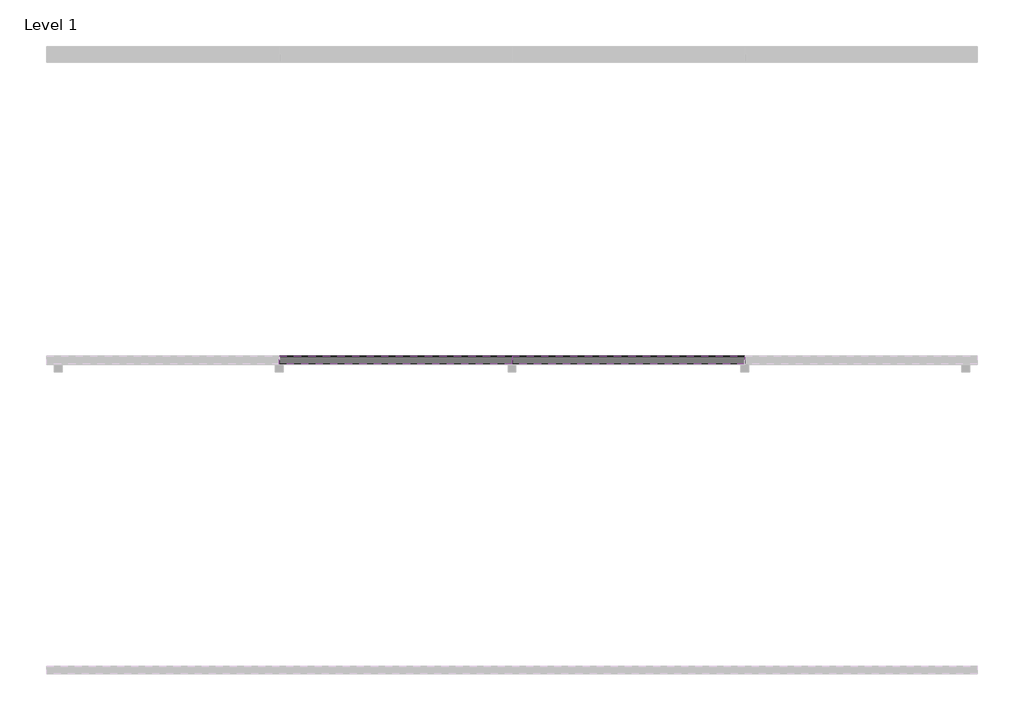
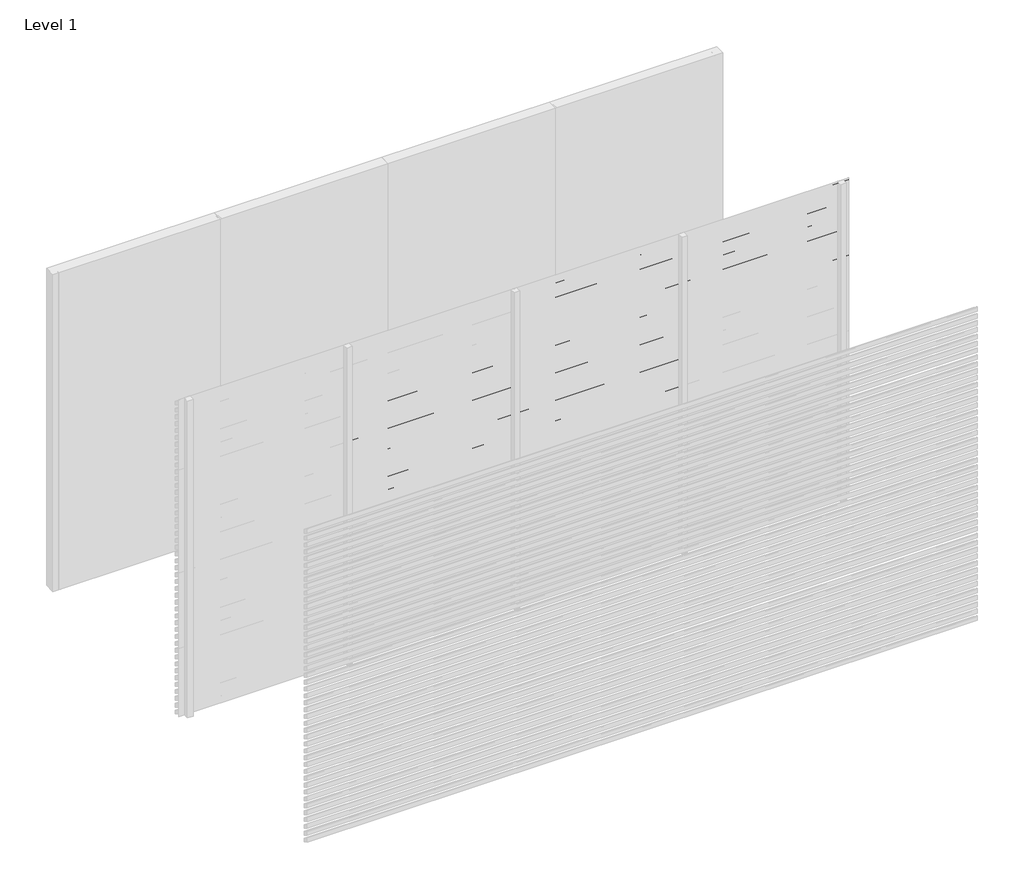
# One storey, part 5 of 10: 97 proxies.
"""IFC4 building model written with IfcOpenShell, lengths in millimetres."""

import ifcopenshell
import ifcopenshell.guid

model = None  # the IFC model being written
_history = None  # IfcOwnerHistory: only IFC2X3 demands one
_inside = {}  # id of a spatial element -> (the spatial element, [elements in it])
_under = {}  # id of a project, library or spatial element -> (it, [spatial elements below it])
_declared = {}  # id of a project -> (the project, [libraries it declares])
_typed = {}  # id of a type object -> (the type object, [elements of that type])
_made_of = {}  # id of a material, layer set ... -> (it, [elements and type objects made of it])


def new_model(schema):
    """Start an empty IFC model of exactly this schema.

    Asked for "IFC4X3", IfcOpenShell would pick the latest addendum, in which some entities
    have other attributes; the version numbers below select the first issue.
    IFC2X3 requires an IfcOwnerHistory on every rooted entity: one is made here for all.
    """
    global model, _history
    if schema == "IFC4X3":
        model = ifcopenshell.file(schema_version=(4, 3, 0, 0))
    else:
        model = ifcopenshell.file(schema=schema)
    _inside.clear()
    _under.clear()
    _declared.clear()
    _typed.clear()
    _made_of.clear()
    _history = None
    if model.schema == "IFC2X3":
        org = make("IfcOrganization", Name="unknown")
        user = make(
            "IfcPersonAndOrganization",
            ThePerson=make("IfcPerson", FamilyName="unknown"),
            TheOrganization=org,
        )
        app = make(
            "IfcApplication",
            ApplicationDeveloper=org,
            Version="unknown",
            ApplicationFullName="unknown",
            ApplicationIdentifier="unknown",
        )
        _history = make(
            "IfcOwnerHistory",
            OwningUser=user,
            OwningApplication=app,
            ChangeAction="ADDED",
            CreationDate=0,
        )
    return model


def make(cls, **values):
    """One entity of the class cls with the attributes given. An attribute that is None is left unset."""
    return model.create_entity(
        cls, **{name: value for name, value in values.items() if value is not None}
    )


def rooted(cls, **values):
    """An entity with a GlobalId (a new one), such as an element, a storey or a relation."""
    return make(cls, GlobalId=ifcopenshell.guid.new(), OwnerHistory=_history, **values)


def si_unit(unit_type, name, prefix=None):
    """IfcSIUnit, for example si_unit("LENGTHUNIT", "METRE", prefix="MILLI")."""
    return make("IfcSIUnit", UnitType=unit_type, Prefix=prefix, Name=name)


def assignment(units):
    """IfcUnitAssignment: the units of a project."""
    return None if units is None else make("IfcUnitAssignment", Units=units)


def point(xyz):
    """IfcCartesianPoint."""
    return None if xyz is None else make("IfcCartesianPoint", Coordinates=xyz)


def direction(xyz):
    """IfcDirection."""
    return None if xyz is None else make("IfcDirection", DirectionRatios=xyz)


def frame(location, z_axis=None, x_axis=None):
    """IfcAxis2Placement3D, a coordinate frame: its origin and axes. An axis left out is left unset."""
    return make(
        "IfcAxis2Placement3D",
        Location=point(location),
        Axis=direction(z_axis),
        RefDirection=direction(x_axis),
    )


def origin():
    """The frame at (0, 0, 0) with its axes left unset."""
    return frame((0.0, 0.0, 0.0))


def place(relative_to, where):
    """IfcLocalPlacement: puts the frame where relative to a parent placement (None: the world)."""
    return make(
        "IfcLocalPlacement", PlacementRelTo=relative_to, RelativePlacement=where
    )


def context(
    kind, dimensions, precision=None, world=None, true_north=None, identifier=None
):
    """IfcGeometricRepresentationContext, for example the 3D "Model" context."""
    return make(
        "IfcGeometricRepresentationContext",
        ContextIdentifier=identifier,
        ContextType=kind,
        CoordinateSpaceDimension=dimensions,
        Precision=precision,
        WorldCoordinateSystem=world,
        TrueNorth=true_north,
    )


def project(units=None, contexts=None):
    """IfcProject with its units and contexts."""
    return rooted(
        "IfcProject",
        Name="project",
        RepresentationContexts=contexts,
        UnitsInContext=assignment(units),
    )


def spatial(cls, under=None, at=None, **own):
    """A site, building, storey or space (cls), placed at a placement, below another one or the project."""
    s = rooted(cls, ObjectPlacement=at, **own)
    if under is not None:
        _under.setdefault(under.id(), (under, []))[1].append(s)
    return s


def polyline(points):
    """IfcPolyline through the points."""
    return make("IfcPolyline", Points=[point(p) for p in points])


def outline(outer, holes=None, kind="AREA"):
    """IfcArbitraryClosedProfileDef: a profile drawn as a closed curve; with holes, ...WithVoids."""
    if holes is None:
        return make("IfcArbitraryClosedProfileDef", ProfileType=kind, OuterCurve=outer)
    return make(
        "IfcArbitraryProfileDefWithVoids",
        ProfileType=kind,
        OuterCurve=outer,
        InnerCurves=holes,
    )


def extrude(swept, where, along, depth):
    """IfcExtrudedAreaSolid: the profile swept, set in the frame where, extruded along a direction by depth."""
    return make(
        "IfcExtrudedAreaSolid",
        SweptArea=swept,
        Position=where,
        ExtrudedDirection=direction(along),
        Depth=depth,
    )


def shape(context_of_items, identifier, shape_type, items):
    """IfcShapeRepresentation: the items that make up one representation, for example the "Body"."""
    return make(
        "IfcShapeRepresentation",
        ContextOfItems=context_of_items,
        RepresentationIdentifier=identifier,
        RepresentationType=shape_type,
        Items=items,
    )


def made_of(thing, what):
    """Note that an element or type object is made of a material, layer set ...; save() writes the relation."""
    if what is not None:
        _made_of.setdefault(what.id(), (what, []))[1].append(thing)
    return thing


def element(
    cls,
    number,
    at=None,
    inside=None,
    cuts=None,
    type_object=None,
    material=None,
    context=None,
    identifier="Body",
    shape_type=None,
    held_by="IfcProductDefinitionShape",
    body=None,
    shapes=None,
    **own,
):
    """One element of the class cls, such as IfcWall. Its Tag is "e" and its number.

    at: its placement. inside: the storey or other place that contains it. cuts: it is an
    opening in that element (IfcRelVoidsElement). A single representation is given by context,
    identifier, shape_type and body (its items); several are given by shapes. held_by: the class
    of the entity that holds the representations. save() writes the other relations.
    """
    e = rooted(cls, Tag="e%d" % number, ObjectPlacement=at, **own)
    if body is not None:
        shapes = [shape(context, identifier, shape_type, body)]
    if shapes is not None:
        e.Representation = make(held_by, Representations=shapes)
    if inside is not None:
        _inside.setdefault(inside.id(), (inside, []))[1].append(e)
    if cuts is not None:
        rooted(
            "IfcRelVoidsElement", RelatingBuildingElement=cuts, RelatedOpeningElement=e
        )
    if type_object is not None:
        _typed.setdefault(type_object.id(), (type_object, []))[1].append(e)
    return made_of(e, material)


def aggregate(whole, parts):
    """IfcRelAggregates: a whole, such as a stair, and the parts it consists of."""
    return rooted("IfcRelAggregates", RelatingObject=whole, RelatedObjects=parts)


def save(model, path):
    """Write the relations noted so far, then the file.

    IfcRelAggregates (storeys below a building ...), IfcRelContainedInSpatialStructure (elements
    in a storey), IfcRelDefinesByType, IfcRelAssociatesMaterial and IfcRelDeclares: one each for
    every whole, place, type object, material and project.
    """
    for whole, parts in _under.values():
        aggregate(whole, parts)
    for where, things in _inside.values():
        rooted(
            "IfcRelContainedInSpatialStructure",
            RelatedElements=things,
            RelatingStructure=where,
        )
    for kind, things in _typed.values():
        rooted("IfcRelDefinesByType", RelatedObjects=things, RelatingType=kind)
    for what, things in _made_of.values():
        rooted("IfcRelAssociatesMaterial", RelatedObjects=things, RelatingMaterial=what)
    for by, libraries in _declared.values():
        rooted("IfcRelDeclares", RelatingContext=by, RelatedDefinitions=libraries)
    model.write(path)


model = new_model("IFC4")

# Units and contexts
model_context = context("Model", 3, world=origin())
ifc_project = project(units=[si_unit("LENGTHUNIT", "METRE", prefix="MILLI")], contexts=[model_context])

# Site, building, storey
site = spatial("IfcSite", under=ifc_project)
building = spatial("IfcBuilding", under=site)
storey = spatial("IfcBuildingStorey", under=building, Name="Level 1", Elevation=0.0)

# Proxies
placement = place(None, origin())
element("IfcBuildingElementProxy", 1, Name="Wall Sweeps", at=placement, inside=storey, context=model_context, shape_type="SweptSolid", body=[
    extrude(outline(polyline([(-11995.0, 2535.0), (-11995.0, 2526.2901632), (-11946.0, 2498.0), (-11946.0, 2463.0), (-11997.0, 2492.4448637), (-11997.0, 2535.0), (-11995.0, 2535.0)])), frame((1500.0, 0.0, 0.0), z_axis=(1.0, 0.0, 0.0), x_axis=(0.0, 1.0, 0.0)), (0.0, 0.0, 1.0), 1500.0),
])
element("IfcBuildingElementProxy", 2, Name="Wall Sweeps", at=placement, inside=storey, context=model_context, shape_type="SweptSolid", body=[
    extrude(outline(polyline([(-11995.0, 2470.0), (-11995.0, 2461.2901632), (-11946.0, 2433.0), (-11946.0, 2398.0), (-11997.0, 2427.4448637), (-11997.0, 2470.0), (-11995.0, 2470.0)])), frame((1500.0, 0.0, 0.0), z_axis=(1.0, 0.0, 0.0), x_axis=(0.0, 1.0, 0.0)), (0.0, 0.0, 1.0), 1500.0),
])
element("IfcBuildingElementProxy", 3, Name="Wall Sweeps", at=placement, inside=storey, context=model_context, shape_type="SweptSolid", body=[
    extrude(outline(polyline([(-11995.0, 2405.0), (-11995.0, 2396.2901632), (-11946.0, 2368.0), (-11946.0, 2333.0), (-11997.0, 2362.4448637), (-11997.0, 2405.0), (-11995.0, 2405.0)])), frame((1500.0, 0.0, 0.0), z_axis=(1.0, 0.0, 0.0), x_axis=(0.0, 1.0, 0.0)), (0.0, 0.0, 1.0), 1500.0),
])
element("IfcBuildingElementProxy", 4, Name="Wall Sweeps", at=placement, inside=storey, context=model_context, shape_type="SweptSolid", body=[
    extrude(outline(polyline([(-11995.0, 2340.0), (-11995.0, 2331.2901632), (-11946.0, 2303.0), (-11946.0, 2268.0), (-11997.0, 2297.4448637), (-11997.0, 2340.0), (-11995.0, 2340.0)])), frame((1500.0, 0.0, 0.0), z_axis=(1.0, 0.0, 0.0), x_axis=(0.0, 1.0, 0.0)), (0.0, 0.0, 1.0), 1500.0),
])
element("IfcBuildingElementProxy", 5, Name="Wall Sweeps", at=placement, inside=storey, context=model_context, shape_type="SweptSolid", body=[
    extrude(outline(polyline([(-11995.0, 2275.0), (-11995.0, 2266.2901632), (-11946.0, 2238.0), (-11946.0, 2203.0), (-11997.0, 2232.4448637), (-11997.0, 2275.0), (-11995.0, 2275.0)])), frame((1500.0, 0.0, 0.0), z_axis=(1.0, 0.0, 0.0), x_axis=(0.0, 1.0, 0.0)), (0.0, 0.0, 1.0), 1500.0),
])
element("IfcBuildingElementProxy", 6, Name="Wall Sweeps", at=placement, inside=storey, context=model_context, shape_type="SweptSolid", body=[
    extrude(outline(polyline([(-11995.0, 2210.0), (-11995.0, 2201.2901632), (-11946.0, 2173.0), (-11946.0, 2138.0), (-11997.0, 2167.4448637), (-11997.0, 2210.0), (-11995.0, 2210.0)])), frame((1500.0, 0.0, 0.0), z_axis=(1.0, 0.0, 0.0), x_axis=(0.0, 1.0, 0.0)), (0.0, 0.0, 1.0), 1500.0),
])
element("IfcBuildingElementProxy", 7, Name="Wall Sweeps", at=placement, inside=storey, context=model_context, shape_type="SweptSolid", body=[
    extrude(outline(polyline([(-11995.0, 2145.0), (-11995.0, 2136.2901632), (-11946.0, 2108.0), (-11946.0, 2073.0), (-11997.0, 2102.4448637), (-11997.0, 2145.0), (-11995.0, 2145.0)])), frame((1500.0, 0.0, 0.0), z_axis=(1.0, 0.0, 0.0), x_axis=(0.0, 1.0, 0.0)), (0.0, 0.0, 1.0), 1500.0),
])
element("IfcBuildingElementProxy", 8, Name="Wall Sweeps", at=placement, inside=storey, context=model_context, shape_type="SweptSolid", body=[
    extrude(outline(polyline([(-11995.0, 2080.0), (-11995.0, 2071.2901632), (-11946.0, 2043.0), (-11946.0, 2008.0), (-11997.0, 2037.4448637), (-11997.0, 2080.0), (-11995.0, 2080.0)])), frame((1500.0, 0.0, 0.0), z_axis=(1.0, 0.0, 0.0), x_axis=(0.0, 1.0, 0.0)), (0.0, 0.0, 1.0), 1500.0),
])
element("IfcBuildingElementProxy", 9, Name="Wall Sweeps", at=placement, inside=storey, context=model_context, shape_type="SweptSolid", body=[
    extrude(outline(polyline([(-11995.0, 2015.0), (-11995.0, 2006.2901632), (-11946.0, 1978.0), (-11946.0, 1943.0), (-11997.0, 1972.4448637), (-11997.0, 2015.0), (-11995.0, 2015.0)])), frame((1500.0, 0.0, 0.0), z_axis=(1.0, 0.0, 0.0), x_axis=(0.0, 1.0, 0.0)), (0.0, 0.0, 1.0), 1500.0),
])
element("IfcBuildingElementProxy", 10, Name="Wall Sweeps", at=placement, inside=storey, context=model_context, shape_type="SweptSolid", body=[
    extrude(outline(polyline([(-11995.0, 1950.0), (-11995.0, 1941.2901632), (-11946.0, 1913.0), (-11946.0, 1878.0), (-11997.0, 1907.4448637), (-11997.0, 1950.0), (-11995.0, 1950.0)])), frame((1500.0, 0.0, 0.0), z_axis=(1.0, 0.0, 0.0), x_axis=(0.0, 1.0, 0.0)), (0.0, 0.0, 1.0), 1500.0),
])
element("IfcBuildingElementProxy", 11, Name="Wall Sweeps", at=placement, inside=storey, context=model_context, shape_type="SweptSolid", body=[
    extrude(outline(polyline([(-11995.0, 1885.0), (-11995.0, 1876.2901632), (-11946.0, 1848.0), (-11946.0, 1813.0), (-11997.0, 1842.4448637), (-11997.0, 1885.0), (-11995.0, 1885.0)])), frame((1500.0, 0.0, 0.0), z_axis=(1.0, 0.0, 0.0), x_axis=(0.0, 1.0, 0.0)), (0.0, 0.0, 1.0), 1500.0),
])
element("IfcBuildingElementProxy", 12, Name="Wall Sweeps", at=placement, inside=storey, context=model_context, shape_type="SweptSolid", body=[
    extrude(outline(polyline([(-11995.0, 1820.0), (-11995.0, 1811.2901632), (-11946.0, 1783.0), (-11946.0, 1748.0), (-11997.0, 1777.4448637), (-11997.0, 1820.0), (-11995.0, 1820.0)])), frame((1500.0, 0.0, 0.0), z_axis=(1.0, 0.0, 0.0), x_axis=(0.0, 1.0, 0.0)), (0.0, 0.0, 1.0), 1500.0),
])
element("IfcBuildingElementProxy", 13, Name="Wall Sweeps", at=placement, inside=storey, context=model_context, shape_type="SweptSolid", body=[
    extrude(outline(polyline([(-11995.0, 1755.0), (-11995.0, 1746.2901632), (-11946.0, 1718.0), (-11946.0, 1683.0), (-11997.0, 1712.4448637), (-11997.0, 1755.0), (-11995.0, 1755.0)])), frame((1500.0, 0.0, 0.0), z_axis=(1.0, 0.0, 0.0), x_axis=(0.0, 1.0, 0.0)), (0.0, 0.0, 1.0), 1500.0),
])
element("IfcBuildingElementProxy", 14, Name="Wall Sweeps", at=placement, inside=storey, context=model_context, shape_type="SweptSolid", body=[
    extrude(outline(polyline([(-11995.0, 1690.0), (-11995.0, 1681.2901632), (-11946.0, 1653.0), (-11946.0, 1618.0), (-11997.0, 1647.4448637), (-11997.0, 1690.0), (-11995.0, 1690.0)])), frame((1500.0, 0.0, 0.0), z_axis=(1.0, 0.0, 0.0), x_axis=(0.0, 1.0, 0.0)), (0.0, 0.0, 1.0), 1500.0),
])
element("IfcBuildingElementProxy", 15, Name="Wall Sweeps", at=placement, inside=storey, context=model_context, shape_type="SweptSolid", body=[
    extrude(outline(polyline([(-11995.0, 1625.0), (-11995.0, 1616.2901632), (-11946.0, 1588.0), (-11946.0, 1553.0), (-11997.0, 1582.4448637), (-11997.0, 1625.0), (-11995.0, 1625.0)])), frame((1500.0, 0.0, 0.0), z_axis=(1.0, 0.0, 0.0), x_axis=(0.0, 1.0, 0.0)), (0.0, 0.0, 1.0), 1500.0),
])
element("IfcBuildingElementProxy", 16, Name="Wall Sweeps", at=placement, inside=storey, context=model_context, shape_type="SweptSolid", body=[
    extrude(outline(polyline([(-11995.0, 1560.0), (-11995.0, 1551.2901632), (-11946.0, 1523.0), (-11946.0, 1488.0), (-11997.0, 1517.4448637), (-11997.0, 1560.0), (-11995.0, 1560.0)])), frame((1500.0, 0.0, 0.0), z_axis=(1.0, 0.0, 0.0), x_axis=(0.0, 1.0, 0.0)), (0.0, 0.0, 1.0), 1500.0),
])
element("IfcBuildingElementProxy", 17, Name="Wall Sweeps", at=placement, inside=storey, context=model_context, shape_type="SweptSolid", body=[
    extrude(outline(polyline([(-11995.0, 1495.0), (-11995.0, 1486.2901632), (-11946.0, 1458.0), (-11946.0, 1423.0), (-11997.0, 1452.4448637), (-11997.0, 1495.0), (-11995.0, 1495.0)])), frame((1500.0, 0.0, 0.0), z_axis=(1.0, 0.0, 0.0), x_axis=(0.0, 1.0, 0.0)), (0.0, 0.0, 1.0), 1500.0),
])
element("IfcBuildingElementProxy", 18, Name="Wall Sweeps", at=placement, inside=storey, context=model_context, shape_type="SweptSolid", body=[
    extrude(outline(polyline([(-11995.0, 1430.0), (-11995.0, 1421.2901632), (-11946.0, 1393.0), (-11946.0, 1358.0), (-11997.0, 1387.4448637), (-11997.0, 1430.0), (-11995.0, 1430.0)])), frame((1500.0, 0.0, 0.0), z_axis=(1.0, 0.0, 0.0), x_axis=(0.0, 1.0, 0.0)), (0.0, 0.0, 1.0), 1500.0),
])
element("IfcBuildingElementProxy", 19, Name="Wall Sweeps", at=placement, inside=storey, context=model_context, shape_type="SweptSolid", body=[
    extrude(outline(polyline([(-11995.0, 1365.0), (-11995.0, 1356.2901632), (-11946.0, 1328.0), (-11946.0, 1293.0), (-11997.0, 1322.4448637), (-11997.0, 1365.0), (-11995.0, 1365.0)])), frame((1500.0, 0.0, 0.0), z_axis=(1.0, 0.0, 0.0), x_axis=(0.0, 1.0, 0.0)), (0.0, 0.0, 1.0), 1500.0),
])
element("IfcBuildingElementProxy", 20, Name="Wall Sweeps", at=placement, inside=storey, context=model_context, shape_type="SweptSolid", body=[
    extrude(outline(polyline([(-11995.0, 1300.0), (-11995.0, 1291.2901632), (-11946.0, 1263.0), (-11946.0, 1228.0), (-11997.0, 1257.4448637), (-11997.0, 1300.0), (-11995.0, 1300.0)])), frame((1500.0, 0.0, 0.0), z_axis=(1.0, 0.0, 0.0), x_axis=(0.0, 1.0, 0.0)), (0.0, 0.0, 1.0), 1500.0),
])
element("IfcBuildingElementProxy", 21, Name="Wall Sweeps", at=placement, inside=storey, context=model_context, shape_type="SweptSolid", body=[
    extrude(outline(polyline([(-11995.0, 1235.0), (-11995.0, 1226.2901632), (-11946.0, 1198.0), (-11946.0, 1163.0), (-11997.0, 1192.4448637), (-11997.0, 1235.0), (-11995.0, 1235.0)])), frame((1500.0, 0.0, 0.0), z_axis=(1.0, 0.0, 0.0), x_axis=(0.0, 1.0, 0.0)), (0.0, 0.0, 1.0), 1500.0),
])
element("IfcBuildingElementProxy", 22, Name="Wall Sweeps", at=placement, inside=storey, context=model_context, shape_type="SweptSolid", body=[
    extrude(outline(polyline([(-11995.0, 1170.0), (-11995.0, 1161.2901632), (-11946.0, 1133.0), (-11946.0, 1098.0), (-11997.0, 1127.4448637), (-11997.0, 1170.0), (-11995.0, 1170.0)])), frame((1500.0, 0.0, 0.0), z_axis=(1.0, 0.0, 0.0), x_axis=(0.0, 1.0, 0.0)), (0.0, 0.0, 1.0), 1500.0),
])
element("IfcBuildingElementProxy", 23, Name="Wall Sweeps", at=placement, inside=storey, context=model_context, shape_type="SweptSolid", body=[
    extrude(outline(polyline([(-11995.0, 1105.0), (-11995.0, 1096.2901632), (-11946.0, 1068.0), (-11946.0, 1033.0), (-11997.0, 1062.4448637), (-11997.0, 1105.0), (-11995.0, 1105.0)])), frame((1500.0, 0.0, 0.0), z_axis=(1.0, 0.0, 0.0), x_axis=(0.0, 1.0, 0.0)), (0.0, 0.0, 1.0), 1500.0),
])
element("IfcBuildingElementProxy", 24, Name="Wall Sweeps", at=placement, inside=storey, context=model_context, shape_type="SweptSolid", body=[
    extrude(outline(polyline([(-11995.0, 1040.0), (-11995.0, 1031.2901632), (-11946.0, 1003.0), (-11946.0, 968.0), (-11997.0, 997.4448637), (-11997.0, 1040.0), (-11995.0, 1040.0)])), frame((1500.0, 0.0, 0.0), z_axis=(1.0, 0.0, 0.0), x_axis=(0.0, 1.0, 0.0)), (0.0, 0.0, 1.0), 1500.0),
])
element("IfcBuildingElementProxy", 25, Name="Wall Sweeps", at=placement, inside=storey, context=model_context, shape_type="SweptSolid", body=[
    extrude(outline(polyline([(-11995.0, 975.0), (-11995.0, 966.2901632), (-11946.0, 938.0), (-11946.0, 903.0), (-11997.0, 932.4448637), (-11997.0, 975.0), (-11995.0, 975.0)])), frame((1500.0, 0.0, 0.0), z_axis=(1.0, 0.0, 0.0), x_axis=(0.0, 1.0, 0.0)), (0.0, 0.0, 1.0), 1500.0),
])
element("IfcBuildingElementProxy", 26, Name="Wall Sweeps", at=placement, inside=storey, context=model_context, shape_type="SweptSolid", body=[
    extrude(outline(polyline([(-11995.0, 910.0), (-11995.0, 901.2901632), (-11946.0, 873.0), (-11946.0, 838.0), (-11997.0, 867.4448637), (-11997.0, 910.0), (-11995.0, 910.0)])), frame((1500.0, 0.0, 0.0), z_axis=(1.0, 0.0, 0.0), x_axis=(0.0, 1.0, 0.0)), (0.0, 0.0, 1.0), 1500.0),
])
element("IfcBuildingElementProxy", 27, Name="Wall Sweeps", at=placement, inside=storey, context=model_context, shape_type="SweptSolid", body=[
    extrude(outline(polyline([(-11995.0, 845.0), (-11995.0, 836.2901632), (-11946.0, 808.0), (-11946.0, 773.0), (-11997.0, 802.4448637), (-11997.0, 845.0), (-11995.0, 845.0)])), frame((1500.0, 0.0, 0.0), z_axis=(1.0, 0.0, 0.0), x_axis=(0.0, 1.0, 0.0)), (0.0, 0.0, 1.0), 1500.0),
])
element("IfcBuildingElementProxy", 28, Name="Wall Sweeps", at=placement, inside=storey, context=model_context, shape_type="SweptSolid", body=[
    extrude(outline(polyline([(-11995.0, 780.0), (-11995.0, 771.2901632), (-11946.0, 743.0), (-11946.0, 708.0), (-11997.0, 737.4448637), (-11997.0, 780.0), (-11995.0, 780.0)])), frame((1500.0, 0.0, 0.0), z_axis=(1.0, 0.0, 0.0), x_axis=(0.0, 1.0, 0.0)), (0.0, 0.0, 1.0), 1500.0),
])
element("IfcBuildingElementProxy", 29, Name="Wall Sweeps", at=placement, inside=storey, context=model_context, shape_type="SweptSolid", body=[
    extrude(outline(polyline([(-11995.0, 715.0), (-11995.0, 706.2901632), (-11946.0, 678.0), (-11946.0, 643.0), (-11997.0, 672.4448637), (-11997.0, 715.0), (-11995.0, 715.0)])), frame((1500.0, 0.0, 0.0), z_axis=(1.0, 0.0, 0.0), x_axis=(0.0, 1.0, 0.0)), (0.0, 0.0, 1.0), 1500.0),
])
element("IfcBuildingElementProxy", 30, Name="Wall Sweeps", at=placement, inside=storey, context=model_context, shape_type="SweptSolid", body=[
    extrude(outline(polyline([(-11995.0, 650.0), (-11995.0, 641.2901632), (-11946.0, 613.0), (-11946.0, 578.0), (-11997.0, 607.4448637), (-11997.0, 650.0), (-11995.0, 650.0)])), frame((1500.0, 0.0, 0.0), z_axis=(1.0, 0.0, 0.0), x_axis=(0.0, 1.0, 0.0)), (0.0, 0.0, 1.0), 1500.0),
])
element("IfcBuildingElementProxy", 31, Name="Wall Sweeps", at=placement, inside=storey, context=model_context, shape_type="SweptSolid", body=[
    extrude(outline(polyline([(-11995.0, 585.0), (-11995.0, 576.2901632), (-11946.0, 548.0), (-11946.0, 513.0), (-11997.0, 542.4448637), (-11997.0, 585.0), (-11995.0, 585.0)])), frame((1500.0, 0.0, 0.0), z_axis=(1.0, 0.0, 0.0), x_axis=(0.0, 1.0, 0.0)), (0.0, 0.0, 1.0), 1500.0),
])
element("IfcBuildingElementProxy", 32, Name="Wall Sweeps", at=placement, inside=storey, context=model_context, shape_type="SweptSolid", body=[
    extrude(outline(polyline([(-11995.0, 520.0), (-11995.0, 511.2901632), (-11946.0, 483.0), (-11946.0, 448.0), (-11997.0, 477.4448637), (-11997.0, 520.0), (-11995.0, 520.0)])), frame((1500.0, 0.0, 0.0), z_axis=(1.0, 0.0, 0.0), x_axis=(0.0, 1.0, 0.0)), (0.0, 0.0, 1.0), 1500.0),
])
element("IfcBuildingElementProxy", 33, Name="Wall Sweeps", at=placement, inside=storey, context=model_context, shape_type="SweptSolid", body=[
    extrude(outline(polyline([(-11995.0, 455.0), (-11995.0, 446.2901632), (-11946.0, 418.0), (-11946.0, 383.0), (-11997.0, 412.4448637), (-11997.0, 455.0), (-11995.0, 455.0)])), frame((1500.0, 0.0, 0.0), z_axis=(1.0, 0.0, 0.0), x_axis=(0.0, 1.0, 0.0)), (0.0, 0.0, 1.0), 1500.0),
])
element("IfcBuildingElementProxy", 34, Name="Wall Sweeps", at=placement, inside=storey, context=model_context, shape_type="SweptSolid", body=[
    extrude(outline(polyline([(-11995.0, 390.0), (-11995.0, 381.2901632), (-11946.0, 353.0), (-11946.0, 318.0), (-11997.0, 347.4448637), (-11997.0, 390.0), (-11995.0, 390.0)])), frame((1500.0, 0.0, 0.0), z_axis=(1.0, 0.0, 0.0), x_axis=(0.0, 1.0, 0.0)), (0.0, 0.0, 1.0), 1500.0),
])
element("IfcBuildingElementProxy", 35, Name="Wall Sweeps", at=placement, inside=storey, context=model_context, shape_type="SweptSolid", body=[
    extrude(outline(polyline([(-11995.0, 325.0), (-11995.0, 316.2901632), (-11946.0, 288.0), (-11946.0, 253.0), (-11997.0, 282.4448637), (-11997.0, 325.0), (-11995.0, 325.0)])), frame((1500.0, 0.0, 0.0), z_axis=(1.0, 0.0, 0.0), x_axis=(0.0, 1.0, 0.0)), (0.0, 0.0, 1.0), 1500.0),
])
element("IfcBuildingElementProxy", 36, Name="Wall Sweeps", at=placement, inside=storey, context=model_context, shape_type="SweptSolid", body=[
    extrude(outline(polyline([(-11995.0, 260.0), (-11995.0, 251.2901632), (-11946.0, 223.0), (-11946.0, 188.0), (-11997.0, 217.4448637), (-11997.0, 260.0), (-11995.0, 260.0)])), frame((1500.0, 0.0, 0.0), z_axis=(1.0, 0.0, 0.0), x_axis=(0.0, 1.0, 0.0)), (0.0, 0.0, 1.0), 1500.0),
])
element("IfcBuildingElementProxy", 37, Name="Wall Sweeps", at=placement, inside=storey, context=model_context, shape_type="SweptSolid", body=[
    extrude(outline(polyline([(-11995.0, 195.0), (-11995.0, 186.2901632), (-11946.0, 158.0), (-11946.0, 123.0), (-11997.0, 152.4448637), (-11997.0, 195.0), (-11995.0, 195.0)])), frame((1500.0, 0.0, 0.0), z_axis=(1.0, 0.0, 0.0), x_axis=(0.0, 1.0, 0.0)), (0.0, 0.0, 1.0), 1500.0),
])
element("IfcBuildingElementProxy", 38, Name="Wall Sweeps", at=placement, inside=storey, context=model_context, shape_type="SweptSolid", body=[
    extrude(outline(polyline([(-11995.0, 130.0), (-11995.0, 121.2901632), (-11946.0, 93.0), (-11946.0, 58.0), (-11997.0, 87.4448637), (-11997.0, 130.0), (-11995.0, 130.0)])), frame((1500.0, 0.0, 0.0), z_axis=(1.0, 0.0, 0.0), x_axis=(0.0, 1.0, 0.0)), (0.0, 0.0, 1.0), 1500.0),
])
element("IfcBuildingElementProxy", 39, Name="Wall Sweeps", at=placement, inside=storey, context=model_context, shape_type="SweptSolid", body=[
    extrude(outline(polyline([(-11995.0, 65.0), (-11995.0, 56.2901632), (-11946.0, 28.0), (-11946.0, -7.0), (-11997.0, 22.4448637), (-11997.0, 65.0), (-11995.0, 65.0)])), frame((1500.0, 0.0, 0.0), z_axis=(1.0, 0.0, 0.0), x_axis=(0.0, 1.0, 0.0)), (0.0, 0.0, 1.0), 1500.0),
])
element("IfcBuildingElementProxy", 40, Name="Wall Sweeps", at=placement, inside=storey, context=model_context, shape_type="SweptSolid", body=[
    extrude(outline(polyline([(-11995.0, 2990.0), (-11995.0, 2981.2901632), (-11946.0, 2953.0), (-11946.0, 2918.0), (-11997.0, 2947.4448637), (-11997.0, 2990.0), (-11995.0, 2990.0)])), frame((3000.0, 0.0, 0.0), z_axis=(1.0, 0.0, 0.0), x_axis=(0.0, 1.0, 0.0)), (0.0, 0.0, 1.0), 1500.0),
])
element("IfcBuildingElementProxy", 41, Name="Wall Sweeps", at=placement, inside=storey, context=model_context, shape_type="SweptSolid", body=[
    extrude(outline(polyline([(-11995.0, 2925.0), (-11995.0, 2916.2901632), (-11946.0, 2888.0), (-11946.0, 2853.0), (-11997.0, 2882.4448637), (-11997.0, 2925.0), (-11995.0, 2925.0)])), frame((3000.0, 0.0, 0.0), z_axis=(1.0, 0.0, 0.0), x_axis=(0.0, 1.0, 0.0)), (0.0, 0.0, 1.0), 1500.0),
])
element("IfcBuildingElementProxy", 42, Name="Wall Sweeps", at=placement, inside=storey, context=model_context, shape_type="SweptSolid", body=[
    extrude(outline(polyline([(-11995.0, 2860.0), (-11995.0, 2851.2901632), (-11946.0, 2823.0), (-11946.0, 2788.0), (-11997.0, 2817.4448637), (-11997.0, 2860.0), (-11995.0, 2860.0)])), frame((3000.0, 0.0, 0.0), z_axis=(1.0, 0.0, 0.0), x_axis=(0.0, 1.0, 0.0)), (0.0, 0.0, 1.0), 1500.0),
])
element("IfcBuildingElementProxy", 43, Name="Wall Sweeps", at=placement, inside=storey, context=model_context, shape_type="SweptSolid", body=[
    extrude(outline(polyline([(-11995.0, 2795.0), (-11995.0, 2786.2901632), (-11946.0, 2758.0), (-11946.0, 2723.0), (-11997.0, 2752.4448637), (-11997.0, 2795.0), (-11995.0, 2795.0)])), frame((3000.0, 0.0, 0.0), z_axis=(1.0, 0.0, 0.0), x_axis=(0.0, 1.0, 0.0)), (0.0, 0.0, 1.0), 1500.0),
])
element("IfcBuildingElementProxy", 44, Name="Wall Sweeps", at=placement, inside=storey, context=model_context, shape_type="SweptSolid", body=[
    extrude(outline(polyline([(-11995.0, 2730.0), (-11995.0, 2721.2901632), (-11946.0, 2693.0), (-11946.0, 2658.0), (-11997.0, 2687.4448637), (-11997.0, 2730.0), (-11995.0, 2730.0)])), frame((3000.0, 0.0, 0.0), z_axis=(1.0, 0.0, 0.0), x_axis=(0.0, 1.0, 0.0)), (0.0, 0.0, 1.0), 1500.0),
])
element("IfcBuildingElementProxy", 45, Name="Wall Sweeps", at=placement, inside=storey, context=model_context, shape_type="SweptSolid", body=[
    extrude(outline(polyline([(-11995.0, 2665.0), (-11995.0, 2656.2901632), (-11946.0, 2628.0), (-11946.0, 2593.0), (-11997.0, 2622.4448637), (-11997.0, 2665.0), (-11995.0, 2665.0)])), frame((3000.0, 0.0, 0.0), z_axis=(1.0, 0.0, 0.0), x_axis=(0.0, 1.0, 0.0)), (0.0, 0.0, 1.0), 1500.0),
])
element("IfcBuildingElementProxy", 46, Name="Wall Sweeps", at=placement, inside=storey, context=model_context, shape_type="SweptSolid", body=[
    extrude(outline(polyline([(-11995.0, 2600.0), (-11995.0, 2591.2901632), (-11946.0, 2563.0), (-11946.0, 2528.0), (-11997.0, 2557.4448637), (-11997.0, 2600.0), (-11995.0, 2600.0)])), frame((3000.0, 0.0, 0.0), z_axis=(1.0, 0.0, 0.0), x_axis=(0.0, 1.0, 0.0)), (0.0, 0.0, 1.0), 1500.0),
])
element("IfcBuildingElementProxy", 47, Name="Wall Sweeps", at=placement, inside=storey, context=model_context, shape_type="SweptSolid", body=[
    extrude(outline(polyline([(-11995.0, 2535.0), (-11995.0, 2526.2901632), (-11946.0, 2498.0), (-11946.0, 2463.0), (-11997.0, 2492.4448637), (-11997.0, 2535.0), (-11995.0, 2535.0)])), frame((3000.0, 0.0, 0.0), z_axis=(1.0, 0.0, 0.0), x_axis=(0.0, 1.0, 0.0)), (0.0, 0.0, 1.0), 1500.0),
])
element("IfcBuildingElementProxy", 48, Name="Wall Sweeps", at=placement, inside=storey, context=model_context, shape_type="SweptSolid", body=[
    extrude(outline(polyline([(-11995.0, 2470.0), (-11995.0, 2461.2901632), (-11946.0, 2433.0), (-11946.0, 2398.0), (-11997.0, 2427.4448637), (-11997.0, 2470.0), (-11995.0, 2470.0)])), frame((3000.0, 0.0, 0.0), z_axis=(1.0, 0.0, 0.0), x_axis=(0.0, 1.0, 0.0)), (0.0, 0.0, 1.0), 1500.0),
])
element("IfcBuildingElementProxy", 49, Name="Wall Sweeps", at=placement, inside=storey, context=model_context, shape_type="SweptSolid", body=[
    extrude(outline(polyline([(-11995.0, 2405.0), (-11995.0, 2396.2901632), (-11946.0, 2368.0), (-11946.0, 2333.0), (-11997.0, 2362.4448637), (-11997.0, 2405.0), (-11995.0, 2405.0)])), frame((3000.0, 0.0, 0.0), z_axis=(1.0, 0.0, 0.0), x_axis=(0.0, 1.0, 0.0)), (0.0, 0.0, 1.0), 1500.0),
])
element("IfcBuildingElementProxy", 50, Name="Wall Sweeps", at=placement, inside=storey, context=model_context, shape_type="SweptSolid", body=[
    extrude(outline(polyline([(-11995.0, 2340.0), (-11995.0, 2331.2901632), (-11946.0, 2303.0), (-11946.0, 2268.0), (-11997.0, 2297.4448637), (-11997.0, 2340.0), (-11995.0, 2340.0)])), frame((3000.0, 0.0, 0.0), z_axis=(1.0, 0.0, 0.0), x_axis=(0.0, 1.0, 0.0)), (0.0, 0.0, 1.0), 1500.0),
])
element("IfcBuildingElementProxy", 51, Name="Wall Sweeps", at=placement, inside=storey, context=model_context, shape_type="SweptSolid", body=[
    extrude(outline(polyline([(-11995.0, 2275.0), (-11995.0, 2266.2901632), (-11946.0, 2238.0), (-11946.0, 2203.0), (-11997.0, 2232.4448637), (-11997.0, 2275.0), (-11995.0, 2275.0)])), frame((3000.0, 0.0, 0.0), z_axis=(1.0, 0.0, 0.0), x_axis=(0.0, 1.0, 0.0)), (0.0, 0.0, 1.0), 1500.0),
])
element("IfcBuildingElementProxy", 52, Name="Wall Sweeps", at=placement, inside=storey, context=model_context, shape_type="SweptSolid", body=[
    extrude(outline(polyline([(-11995.0, 2210.0), (-11995.0, 2201.2901632), (-11946.0, 2173.0), (-11946.0, 2138.0), (-11997.0, 2167.4448637), (-11997.0, 2210.0), (-11995.0, 2210.0)])), frame((3000.0, 0.0, 0.0), z_axis=(1.0, 0.0, 0.0), x_axis=(0.0, 1.0, 0.0)), (0.0, 0.0, 1.0), 1500.0),
])
element("IfcBuildingElementProxy", 53, Name="Wall Sweeps", at=placement, inside=storey, context=model_context, shape_type="SweptSolid", body=[
    extrude(outline(polyline([(-11995.0, 2145.0), (-11995.0, 2136.2901632), (-11946.0, 2108.0), (-11946.0, 2073.0), (-11997.0, 2102.4448637), (-11997.0, 2145.0), (-11995.0, 2145.0)])), frame((3000.0, 0.0, 0.0), z_axis=(1.0, 0.0, 0.0), x_axis=(0.0, 1.0, 0.0)), (0.0, 0.0, 1.0), 1500.0),
])
element("IfcBuildingElementProxy", 54, Name="Wall Sweeps", at=placement, inside=storey, context=model_context, shape_type="SweptSolid", body=[
    extrude(outline(polyline([(-11995.0, 2080.0), (-11995.0, 2071.2901632), (-11946.0, 2043.0), (-11946.0, 2008.0), (-11997.0, 2037.4448637), (-11997.0, 2080.0), (-11995.0, 2080.0)])), frame((3000.0, 0.0, 0.0), z_axis=(1.0, 0.0, 0.0), x_axis=(0.0, 1.0, 0.0)), (0.0, 0.0, 1.0), 1500.0),
])
element("IfcBuildingElementProxy", 55, Name="Wall Sweeps", at=placement, inside=storey, context=model_context, shape_type="SweptSolid", body=[
    extrude(outline(polyline([(-11995.0, 2015.0), (-11995.0, 2006.2901632), (-11946.0, 1978.0), (-11946.0, 1943.0), (-11997.0, 1972.4448637), (-11997.0, 2015.0), (-11995.0, 2015.0)])), frame((3000.0, 0.0, 0.0), z_axis=(1.0, 0.0, 0.0), x_axis=(0.0, 1.0, 0.0)), (0.0, 0.0, 1.0), 1500.0),
])
element("IfcBuildingElementProxy", 56, Name="Wall Sweeps", at=placement, inside=storey, context=model_context, shape_type="SweptSolid", body=[
    extrude(outline(polyline([(-11995.0, 1950.0), (-11995.0, 1941.2901632), (-11946.0, 1913.0), (-11946.0, 1878.0), (-11997.0, 1907.4448637), (-11997.0, 1950.0), (-11995.0, 1950.0)])), frame((3000.0, 0.0, 0.0), z_axis=(1.0, 0.0, 0.0), x_axis=(0.0, 1.0, 0.0)), (0.0, 0.0, 1.0), 1500.0),
])
element("IfcBuildingElementProxy", 57, Name="Wall Sweeps", at=placement, inside=storey, context=model_context, shape_type="SweptSolid", body=[
    extrude(outline(polyline([(-11995.0, 1885.0), (-11995.0, 1876.2901632), (-11946.0, 1848.0), (-11946.0, 1813.0), (-11997.0, 1842.4448637), (-11997.0, 1885.0), (-11995.0, 1885.0)])), frame((3000.0, 0.0, 0.0), z_axis=(1.0, 0.0, 0.0), x_axis=(0.0, 1.0, 0.0)), (0.0, 0.0, 1.0), 1500.0),
])
element("IfcBuildingElementProxy", 58, Name="Wall Sweeps", at=placement, inside=storey, context=model_context, shape_type="SweptSolid", body=[
    extrude(outline(polyline([(-11995.0, 1820.0), (-11995.0, 1811.2901632), (-11946.0, 1783.0), (-11946.0, 1748.0), (-11997.0, 1777.4448637), (-11997.0, 1820.0), (-11995.0, 1820.0)])), frame((3000.0, 0.0, 0.0), z_axis=(1.0, 0.0, 0.0), x_axis=(0.0, 1.0, 0.0)), (0.0, 0.0, 1.0), 1500.0),
])
element("IfcBuildingElementProxy", 59, Name="Wall Sweeps", at=placement, inside=storey, context=model_context, shape_type="SweptSolid", body=[
    extrude(outline(polyline([(-11995.0, 1755.0), (-11995.0, 1746.2901632), (-11946.0, 1718.0), (-11946.0, 1683.0), (-11997.0, 1712.4448637), (-11997.0, 1755.0), (-11995.0, 1755.0)])), frame((3000.0, 0.0, 0.0), z_axis=(1.0, 0.0, 0.0), x_axis=(0.0, 1.0, 0.0)), (0.0, 0.0, 1.0), 1500.0),
])
element("IfcBuildingElementProxy", 60, Name="Wall Sweeps", at=placement, inside=storey, context=model_context, shape_type="SweptSolid", body=[
    extrude(outline(polyline([(-11995.0, 1690.0), (-11995.0, 1681.2901632), (-11946.0, 1653.0), (-11946.0, 1618.0), (-11997.0, 1647.4448637), (-11997.0, 1690.0), (-11995.0, 1690.0)])), frame((3000.0, 0.0, 0.0), z_axis=(1.0, 0.0, 0.0), x_axis=(0.0, 1.0, 0.0)), (0.0, 0.0, 1.0), 1500.0),
])
element("IfcBuildingElementProxy", 61, Name="Wall Sweeps", at=placement, inside=storey, context=model_context, shape_type="SweptSolid", body=[
    extrude(outline(polyline([(-11995.0, 1625.0), (-11995.0, 1616.2901632), (-11946.0, 1588.0), (-11946.0, 1553.0), (-11997.0, 1582.4448637), (-11997.0, 1625.0), (-11995.0, 1625.0)])), frame((3000.0, 0.0, 0.0), z_axis=(1.0, 0.0, 0.0), x_axis=(0.0, 1.0, 0.0)), (0.0, 0.0, 1.0), 1500.0),
])
element("IfcBuildingElementProxy", 62, Name="Wall Sweeps", at=placement, inside=storey, context=model_context, shape_type="SweptSolid", body=[
    extrude(outline(polyline([(-11995.0, 1560.0), (-11995.0, 1551.2901632), (-11946.0, 1523.0), (-11946.0, 1488.0), (-11997.0, 1517.4448637), (-11997.0, 1560.0), (-11995.0, 1560.0)])), frame((3000.0, 0.0, 0.0), z_axis=(1.0, 0.0, 0.0), x_axis=(0.0, 1.0, 0.0)), (0.0, 0.0, 1.0), 1500.0),
])
element("IfcBuildingElementProxy", 63, Name="Wall Sweeps", at=placement, inside=storey, context=model_context, shape_type="SweptSolid", body=[
    extrude(outline(polyline([(-11995.0, 1495.0), (-11995.0, 1486.2901632), (-11946.0, 1458.0), (-11946.0, 1423.0), (-11997.0, 1452.4448637), (-11997.0, 1495.0), (-11995.0, 1495.0)])), frame((3000.0, 0.0, 0.0), z_axis=(1.0, 0.0, 0.0), x_axis=(0.0, 1.0, 0.0)), (0.0, 0.0, 1.0), 1500.0),
])
element("IfcBuildingElementProxy", 64, Name="Wall Sweeps", at=placement, inside=storey, context=model_context, shape_type="SweptSolid", body=[
    extrude(outline(polyline([(-11995.0, 1430.0), (-11995.0, 1421.2901632), (-11946.0, 1393.0), (-11946.0, 1358.0), (-11997.0, 1387.4448637), (-11997.0, 1430.0), (-11995.0, 1430.0)])), frame((3000.0, 0.0, 0.0), z_axis=(1.0, 0.0, 0.0), x_axis=(0.0, 1.0, 0.0)), (0.0, 0.0, 1.0), 1500.0),
])
element("IfcBuildingElementProxy", 65, Name="Wall Sweeps", at=placement, inside=storey, context=model_context, shape_type="SweptSolid", body=[
    extrude(outline(polyline([(-11995.0, 1365.0), (-11995.0, 1356.2901632), (-11946.0, 1328.0), (-11946.0, 1293.0), (-11997.0, 1322.4448637), (-11997.0, 1365.0), (-11995.0, 1365.0)])), frame((3000.0, 0.0, 0.0), z_axis=(1.0, 0.0, 0.0), x_axis=(0.0, 1.0, 0.0)), (0.0, 0.0, 1.0), 1500.0),
])
element("IfcBuildingElementProxy", 66, Name="Wall Sweeps", at=placement, inside=storey, context=model_context, shape_type="SweptSolid", body=[
    extrude(outline(polyline([(-11995.0, 1300.0), (-11995.0, 1291.2901632), (-11946.0, 1263.0), (-11946.0, 1228.0), (-11997.0, 1257.4448637), (-11997.0, 1300.0), (-11995.0, 1300.0)])), frame((3000.0, 0.0, 0.0), z_axis=(1.0, 0.0, 0.0), x_axis=(0.0, 1.0, 0.0)), (0.0, 0.0, 1.0), 1500.0),
])
element("IfcBuildingElementProxy", 67, Name="Wall Sweeps", at=placement, inside=storey, context=model_context, shape_type="SweptSolid", body=[
    extrude(outline(polyline([(-11995.0, 1235.0), (-11995.0, 1226.2901632), (-11946.0, 1198.0), (-11946.0, 1163.0), (-11997.0, 1192.4448637), (-11997.0, 1235.0), (-11995.0, 1235.0)])), frame((3000.0, 0.0, 0.0), z_axis=(1.0, 0.0, 0.0), x_axis=(0.0, 1.0, 0.0)), (0.0, 0.0, 1.0), 1500.0),
])
element("IfcBuildingElementProxy", 68, Name="Wall Sweeps", at=placement, inside=storey, context=model_context, shape_type="SweptSolid", body=[
    extrude(outline(polyline([(-11995.0, 1170.0), (-11995.0, 1161.2901632), (-11946.0, 1133.0), (-11946.0, 1098.0), (-11997.0, 1127.4448637), (-11997.0, 1170.0), (-11995.0, 1170.0)])), frame((3000.0, 0.0, 0.0), z_axis=(1.0, 0.0, 0.0), x_axis=(0.0, 1.0, 0.0)), (0.0, 0.0, 1.0), 1500.0),
])
element("IfcBuildingElementProxy", 69, Name="Wall Sweeps", at=placement, inside=storey, context=model_context, shape_type="SweptSolid", body=[
    extrude(outline(polyline([(-11995.0, 1105.0), (-11995.0, 1096.2901632), (-11946.0, 1068.0), (-11946.0, 1033.0), (-11997.0, 1062.4448637), (-11997.0, 1105.0), (-11995.0, 1105.0)])), frame((3000.0, 0.0, 0.0), z_axis=(1.0, 0.0, 0.0), x_axis=(0.0, 1.0, 0.0)), (0.0, 0.0, 1.0), 1500.0),
])
element("IfcBuildingElementProxy", 70, Name="Wall Sweeps", at=placement, inside=storey, context=model_context, shape_type="SweptSolid", body=[
    extrude(outline(polyline([(-11995.0, 1040.0), (-11995.0, 1031.2901632), (-11946.0, 1003.0), (-11946.0, 968.0), (-11997.0, 997.4448637), (-11997.0, 1040.0), (-11995.0, 1040.0)])), frame((3000.0, 0.0, 0.0), z_axis=(1.0, 0.0, 0.0), x_axis=(0.0, 1.0, 0.0)), (0.0, 0.0, 1.0), 1500.0),
])
element("IfcBuildingElementProxy", 71, Name="Wall Sweeps", at=placement, inside=storey, context=model_context, shape_type="SweptSolid", body=[
    extrude(outline(polyline([(-11995.0, 975.0), (-11995.0, 966.2901632), (-11946.0, 938.0), (-11946.0, 903.0), (-11997.0, 932.4448637), (-11997.0, 975.0), (-11995.0, 975.0)])), frame((3000.0, 0.0, 0.0), z_axis=(1.0, 0.0, 0.0), x_axis=(0.0, 1.0, 0.0)), (0.0, 0.0, 1.0), 1500.0),
])
element("IfcBuildingElementProxy", 72, Name="Wall Sweeps", at=placement, inside=storey, context=model_context, shape_type="SweptSolid", body=[
    extrude(outline(polyline([(-11995.0, 910.0), (-11995.0, 901.2901632), (-11946.0, 873.0), (-11946.0, 838.0), (-11997.0, 867.4448637), (-11997.0, 910.0), (-11995.0, 910.0)])), frame((3000.0, 0.0, 0.0), z_axis=(1.0, 0.0, 0.0), x_axis=(0.0, 1.0, 0.0)), (0.0, 0.0, 1.0), 1500.0),
])
element("IfcBuildingElementProxy", 73, Name="Wall Sweeps", at=placement, inside=storey, context=model_context, shape_type="SweptSolid", body=[
    extrude(outline(polyline([(-11995.0, 845.0), (-11995.0, 836.2901632), (-11946.0, 808.0), (-11946.0, 773.0), (-11997.0, 802.4448637), (-11997.0, 845.0), (-11995.0, 845.0)])), frame((3000.0, 0.0, 0.0), z_axis=(1.0, 0.0, 0.0), x_axis=(0.0, 1.0, 0.0)), (0.0, 0.0, 1.0), 1500.0),
])
element("IfcBuildingElementProxy", 74, Name="Wall Sweeps", at=placement, inside=storey, context=model_context, shape_type="SweptSolid", body=[
    extrude(outline(polyline([(-11995.0, 780.0), (-11995.0, 771.2901632), (-11946.0, 743.0), (-11946.0, 708.0), (-11997.0, 737.4448637), (-11997.0, 780.0), (-11995.0, 780.0)])), frame((3000.0, 0.0, 0.0), z_axis=(1.0, 0.0, 0.0), x_axis=(0.0, 1.0, 0.0)), (0.0, 0.0, 1.0), 1500.0),
])
element("IfcBuildingElementProxy", 75, Name="Wall Sweeps", at=placement, inside=storey, context=model_context, shape_type="SweptSolid", body=[
    extrude(outline(polyline([(-11995.0, 715.0), (-11995.0, 706.2901632), (-11946.0, 678.0), (-11946.0, 643.0), (-11997.0, 672.4448637), (-11997.0, 715.0), (-11995.0, 715.0)])), frame((3000.0, 0.0, 0.0), z_axis=(1.0, 0.0, 0.0), x_axis=(0.0, 1.0, 0.0)), (0.0, 0.0, 1.0), 1500.0),
])
element("IfcBuildingElementProxy", 76, Name="Wall Sweeps", at=placement, inside=storey, context=model_context, shape_type="SweptSolid", body=[
    extrude(outline(polyline([(-11995.0, 650.0), (-11995.0, 641.2901632), (-11946.0, 613.0), (-11946.0, 578.0), (-11997.0, 607.4448637), (-11997.0, 650.0), (-11995.0, 650.0)])), frame((3000.0, 0.0, 0.0), z_axis=(1.0, 0.0, 0.0), x_axis=(0.0, 1.0, 0.0)), (0.0, 0.0, 1.0), 1500.0),
])
element("IfcBuildingElementProxy", 77, Name="Wall Sweeps", at=placement, inside=storey, context=model_context, shape_type="SweptSolid", body=[
    extrude(outline(polyline([(-11995.0, 585.0), (-11995.0, 576.2901632), (-11946.0, 548.0), (-11946.0, 513.0), (-11997.0, 542.4448637), (-11997.0, 585.0), (-11995.0, 585.0)])), frame((3000.0, 0.0, 0.0), z_axis=(1.0, 0.0, 0.0), x_axis=(0.0, 1.0, 0.0)), (0.0, 0.0, 1.0), 1500.0),
])
element("IfcBuildingElementProxy", 78, Name="Wall Sweeps", at=placement, inside=storey, context=model_context, shape_type="SweptSolid", body=[
    extrude(outline(polyline([(-11995.0, 520.0), (-11995.0, 511.2901632), (-11946.0, 483.0), (-11946.0, 448.0), (-11997.0, 477.4448637), (-11997.0, 520.0), (-11995.0, 520.0)])), frame((3000.0, 0.0, 0.0), z_axis=(1.0, 0.0, 0.0), x_axis=(0.0, 1.0, 0.0)), (0.0, 0.0, 1.0), 1500.0),
])
element("IfcBuildingElementProxy", 79, Name="Wall Sweeps", at=placement, inside=storey, context=model_context, shape_type="SweptSolid", body=[
    extrude(outline(polyline([(-11995.0, 455.0), (-11995.0, 446.2901632), (-11946.0, 418.0), (-11946.0, 383.0), (-11997.0, 412.4448637), (-11997.0, 455.0), (-11995.0, 455.0)])), frame((3000.0, 0.0, 0.0), z_axis=(1.0, 0.0, 0.0), x_axis=(0.0, 1.0, 0.0)), (0.0, 0.0, 1.0), 1500.0),
])
element("IfcBuildingElementProxy", 80, Name="Wall Sweeps", at=placement, inside=storey, context=model_context, shape_type="SweptSolid", body=[
    extrude(outline(polyline([(-11995.0, 390.0), (-11995.0, 381.2901632), (-11946.0, 353.0), (-11946.0, 318.0), (-11997.0, 347.4448637), (-11997.0, 390.0), (-11995.0, 390.0)])), frame((3000.0, 0.0, 0.0), z_axis=(1.0, 0.0, 0.0), x_axis=(0.0, 1.0, 0.0)), (0.0, 0.0, 1.0), 1500.0),
])
element("IfcBuildingElementProxy", 81, Name="Wall Sweeps", at=placement, inside=storey, context=model_context, shape_type="SweptSolid", body=[
    extrude(outline(polyline([(-11995.0, 325.0), (-11995.0, 316.2901632), (-11946.0, 288.0), (-11946.0, 253.0), (-11997.0, 282.4448637), (-11997.0, 325.0), (-11995.0, 325.0)])), frame((3000.0, 0.0, 0.0), z_axis=(1.0, 0.0, 0.0), x_axis=(0.0, 1.0, 0.0)), (0.0, 0.0, 1.0), 1500.0),
])
element("IfcBuildingElementProxy", 82, Name="Wall Sweeps", at=placement, inside=storey, context=model_context, shape_type="SweptSolid", body=[
    extrude(outline(polyline([(-11995.0, 260.0), (-11995.0, 251.2901632), (-11946.0, 223.0), (-11946.0, 188.0), (-11997.0, 217.4448637), (-11997.0, 260.0), (-11995.0, 260.0)])), frame((3000.0, 0.0, 0.0), z_axis=(1.0, 0.0, 0.0), x_axis=(0.0, 1.0, 0.0)), (0.0, 0.0, 1.0), 1500.0),
])
element("IfcBuildingElementProxy", 83, Name="Wall Sweeps", at=placement, inside=storey, context=model_context, shape_type="SweptSolid", body=[
    extrude(outline(polyline([(-11995.0, 195.0), (-11995.0, 186.2901632), (-11946.0, 158.0), (-11946.0, 123.0), (-11997.0, 152.4448637), (-11997.0, 195.0), (-11995.0, 195.0)])), frame((3000.0, 0.0, 0.0), z_axis=(1.0, 0.0, 0.0), x_axis=(0.0, 1.0, 0.0)), (0.0, 0.0, 1.0), 1500.0),
])
element("IfcBuildingElementProxy", 84, Name="Wall Sweeps", at=placement, inside=storey, context=model_context, shape_type="SweptSolid", body=[
    extrude(outline(polyline([(-11995.0, 130.0), (-11995.0, 121.2901632), (-11946.0, 93.0), (-11946.0, 58.0), (-11997.0, 87.4448637), (-11997.0, 130.0), (-11995.0, 130.0)])), frame((3000.0, 0.0, 0.0), z_axis=(1.0, 0.0, 0.0), x_axis=(0.0, 1.0, 0.0)), (0.0, 0.0, 1.0), 1500.0),
])
element("IfcBuildingElementProxy", 85, Name="Wall Sweeps", at=placement, inside=storey, context=model_context, shape_type="SweptSolid", body=[
    extrude(outline(polyline([(-11995.0, 65.0), (-11995.0, 56.2901632), (-11946.0, 28.0), (-11946.0, -7.0), (-11997.0, 22.4448637), (-11997.0, 65.0), (-11995.0, 65.0)])), frame((3000.0, 0.0, 0.0), z_axis=(1.0, 0.0, 0.0), x_axis=(0.0, 1.0, 0.0)), (0.0, 0.0, 1.0), 1500.0),
])
element("IfcBuildingElementProxy", 86, Name="Wall Sweeps", at=placement, inside=storey, context=model_context, shape_type="SweptSolid", body=[
    extrude(outline(polyline([(-11995.0, 2990.0), (-11995.0, 2981.2901632), (-11946.0, 2953.0), (-11946.0, 2918.0), (-11997.0, 2947.4448637), (-11997.0, 2990.0), (-11995.0, 2990.0)])), frame((4500.0, 0.0, 0.0), z_axis=(1.0, 0.0, 0.0), x_axis=(0.0, 1.0, 0.0)), (0.0, 0.0, 1.0), 1500.0),
])
element("IfcBuildingElementProxy", 87, Name="Wall Sweeps", at=placement, inside=storey, context=model_context, shape_type="SweptSolid", body=[
    extrude(outline(polyline([(-11995.0, 2925.0), (-11995.0, 2916.2901632), (-11946.0, 2888.0), (-11946.0, 2853.0), (-11997.0, 2882.4448637), (-11997.0, 2925.0), (-11995.0, 2925.0)])), frame((4500.0, 0.0, 0.0), z_axis=(1.0, 0.0, 0.0), x_axis=(0.0, 1.0, 0.0)), (0.0, 0.0, 1.0), 1500.0),
])
element("IfcBuildingElementProxy", 88, Name="Wall Sweeps", at=placement, inside=storey, context=model_context, shape_type="SweptSolid", body=[
    extrude(outline(polyline([(-11995.0, 2860.0), (-11995.0, 2851.2901632), (-11946.0, 2823.0), (-11946.0, 2788.0), (-11997.0, 2817.4448637), (-11997.0, 2860.0), (-11995.0, 2860.0)])), frame((4500.0, 0.0, 0.0), z_axis=(1.0, 0.0, 0.0), x_axis=(0.0, 1.0, 0.0)), (0.0, 0.0, 1.0), 1500.0),
])
element("IfcBuildingElementProxy", 89, Name="Wall Sweeps", at=placement, inside=storey, context=model_context, shape_type="SweptSolid", body=[
    extrude(outline(polyline([(-11995.0, 2795.0), (-11995.0, 2786.2901632), (-11946.0, 2758.0), (-11946.0, 2723.0), (-11997.0, 2752.4448637), (-11997.0, 2795.0), (-11995.0, 2795.0)])), frame((4500.0, 0.0, 0.0), z_axis=(1.0, 0.0, 0.0), x_axis=(0.0, 1.0, 0.0)), (0.0, 0.0, 1.0), 1500.0),
])
element("IfcBuildingElementProxy", 90, Name="Wall Sweeps", at=placement, inside=storey, context=model_context, shape_type="SweptSolid", body=[
    extrude(outline(polyline([(-11995.0, 2730.0), (-11995.0, 2721.2901632), (-11946.0, 2693.0), (-11946.0, 2658.0), (-11997.0, 2687.4448637), (-11997.0, 2730.0), (-11995.0, 2730.0)])), frame((4500.0, 0.0, 0.0), z_axis=(1.0, 0.0, 0.0), x_axis=(0.0, 1.0, 0.0)), (0.0, 0.0, 1.0), 1500.0),
])
element("IfcBuildingElementProxy", 91, Name="Wall Sweeps", at=placement, inside=storey, context=model_context, shape_type="SweptSolid", body=[
    extrude(outline(polyline([(-11995.0, 2665.0), (-11995.0, 2656.2901632), (-11946.0, 2628.0), (-11946.0, 2593.0), (-11997.0, 2622.4448637), (-11997.0, 2665.0), (-11995.0, 2665.0)])), frame((4500.0, 0.0, 0.0), z_axis=(1.0, 0.0, 0.0), x_axis=(0.0, 1.0, 0.0)), (0.0, 0.0, 1.0), 1500.0),
])
element("IfcBuildingElementProxy", 92, Name="Wall Sweeps", at=placement, inside=storey, context=model_context, shape_type="SweptSolid", body=[
    extrude(outline(polyline([(-11995.0, 2600.0), (-11995.0, 2591.2901632), (-11946.0, 2563.0), (-11946.0, 2528.0), (-11997.0, 2557.4448637), (-11997.0, 2600.0), (-11995.0, 2600.0)])), frame((4500.0, 0.0, 0.0), z_axis=(1.0, 0.0, 0.0), x_axis=(0.0, 1.0, 0.0)), (0.0, 0.0, 1.0), 1500.0),
])
element("IfcBuildingElementProxy", 93, Name="Wall Sweeps", at=placement, inside=storey, context=model_context, shape_type="SweptSolid", body=[
    extrude(outline(polyline([(-11995.0, 2535.0), (-11995.0, 2526.2901632), (-11946.0, 2498.0), (-11946.0, 2463.0), (-11997.0, 2492.4448637), (-11997.0, 2535.0), (-11995.0, 2535.0)])), frame((4500.0, 0.0, 0.0), z_axis=(1.0, 0.0, 0.0), x_axis=(0.0, 1.0, 0.0)), (0.0, 0.0, 1.0), 1500.0),
])
element("IfcBuildingElementProxy", 94, Name="Wall Sweeps", at=placement, inside=storey, context=model_context, shape_type="SweptSolid", body=[
    extrude(outline(polyline([(-11995.0, 2470.0), (-11995.0, 2461.2901632), (-11946.0, 2433.0), (-11946.0, 2398.0), (-11997.0, 2427.4448637), (-11997.0, 2470.0), (-11995.0, 2470.0)])), frame((4500.0, 0.0, 0.0), z_axis=(1.0, 0.0, 0.0), x_axis=(0.0, 1.0, 0.0)), (0.0, 0.0, 1.0), 1500.0),
])
element("IfcBuildingElementProxy", 95, Name="Wall Sweeps", at=placement, inside=storey, context=model_context, shape_type="SweptSolid", body=[
    extrude(outline(polyline([(-11995.0, 2405.0), (-11995.0, 2396.2901632), (-11946.0, 2368.0), (-11946.0, 2333.0), (-11997.0, 2362.4448637), (-11997.0, 2405.0), (-11995.0, 2405.0)])), frame((4500.0, 0.0, 0.0), z_axis=(1.0, 0.0, 0.0), x_axis=(0.0, 1.0, 0.0)), (0.0, 0.0, 1.0), 1500.0),
])
element("IfcBuildingElementProxy", 96, Name="Wall Sweeps", at=placement, inside=storey, context=model_context, shape_type="SweptSolid", body=[
    extrude(outline(polyline([(-11995.0, 2340.0), (-11995.0, 2331.2901632), (-11946.0, 2303.0), (-11946.0, 2268.0), (-11997.0, 2297.4448637), (-11997.0, 2340.0), (-11995.0, 2340.0)])), frame((4500.0, 0.0, 0.0), z_axis=(1.0, 0.0, 0.0), x_axis=(0.0, 1.0, 0.0)), (0.0, 0.0, 1.0), 1500.0),
])
element("IfcBuildingElementProxy", 97, Name="Wall Sweeps", at=placement, inside=storey, context=model_context, shape_type="SweptSolid", body=[
    extrude(outline(polyline([(-11995.0, 2275.0), (-11995.0, 2266.2901632), (-11946.0, 2238.0), (-11946.0, 2203.0), (-11997.0, 2232.4448637), (-11997.0, 2275.0), (-11995.0, 2275.0)])), frame((4500.0, 0.0, 0.0), z_axis=(1.0, 0.0, 0.0), x_axis=(0.0, 1.0, 0.0)), (0.0, 0.0, 1.0), 1500.0),
])

save(model, "model.ifc")
